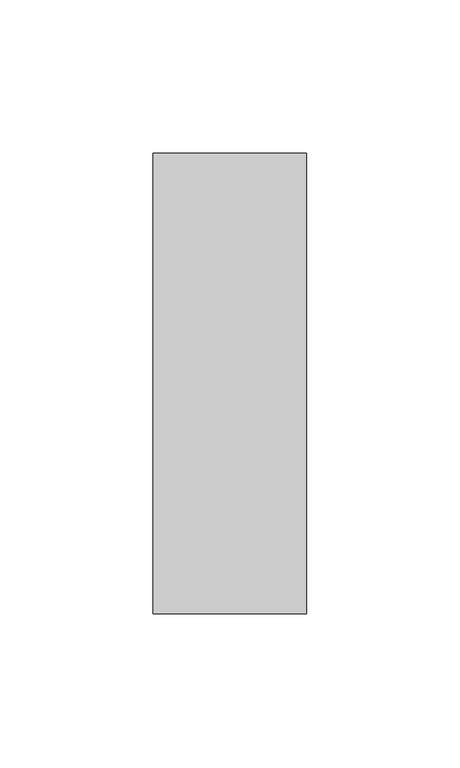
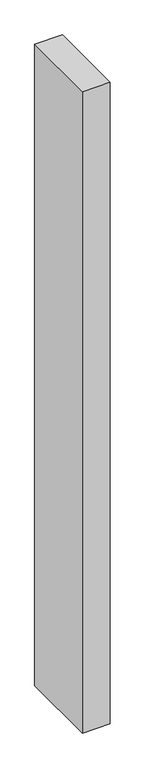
"""IFC4 building model written with IfcOpenShell, lengths in millimetres: member geometry, Прямоугольный импост : 50 x 150 мм."""

from ifc_helpers import new_model, si_unit, frame, origin, place, context, project, spatial, polyline, outline, extrude, source, transform, mapped, element, save


def member_b542e012(model_context):
    return source(origin(), model_context, "Body", "SweptSolid", [
        extrude(outline(polyline([(25.0, 75.0), (25.0, -75.0), (-25.0, -75.0), (-25.0, 75.0), (25.0, 75.0)])), frame((0.0, 0.0, -1228.2069432), z_axis=(0.0, 0.0, 1.0), x_axis=(1.0, 0.0, 0.0)), (0.0, 0.0, 1.0), 1228.2069432),
    ])


if __name__ == "__main__":
    model = new_model("IFC4")
    model_context = context("Model", 3, world=origin())
    ifc_project = project(units=[si_unit("LENGTHUNIT", "METRE", prefix="MILLI")], contexts=[model_context])
    site = spatial("IfcSite", under=ifc_project)
    building = spatial("IfcBuilding", under=site)
    placement = place(None, origin())
    member_shape = member_b542e012(model_context)
    element("IfcMember", 1, ObjectType="Прямоугольный импост : 50 x 150 мм", at=placement, inside=building, context=model_context, shape_type="MappedRepresentation", body=[
        mapped(member_shape, transform((0.0, 0.0, 0.0), x_axis=(1.0, 0.0, 0.0), y_axis=(0.0, 1.0, 0.0), z_axis=(0.0, 0.0, 1.0))),
    ])
    save(model, "model.ifc")
